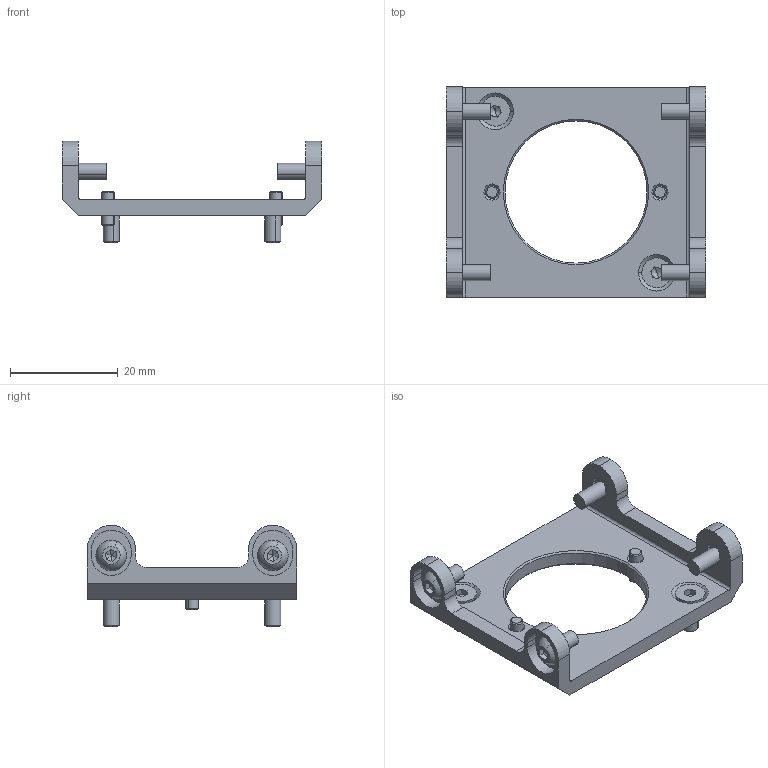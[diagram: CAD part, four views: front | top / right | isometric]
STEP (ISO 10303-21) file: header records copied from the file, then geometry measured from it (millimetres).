
FILE_DESCRIPTION (( 'STEP AP203' ), '1' );
FILE_NAME ('CSC1-C.STEP', '2024-03-28T03:19:53', ( '' ), ( '' ), 'SwSTEP 2.0', 'SolidWorks 2021', '' );
FILE_SCHEMA (( 'CONFIG_CONTROL_DESIGN' ));
Length unit declared in the file: millimetre
Products named in the file (1): CSC1-C
Bounding box: 48.2 x 39 x 18.84 mm (x, y, z)
Surface area: 5374.8 mm2 (no closed solid volume)
Topology: 0 solids, 13 shells, 271 faces, 974 edges, 728 vertices
Faces by surface type: plane 160, cylinder 64, cone 32, sphere 8, bspline 7
Entity records: 11983 total; most frequent: CARTESIAN_POINT 3725, DIRECTION 1624, ORIENTED_EDGE 1538, EDGE_CURVE 970, VERTEX_POINT 728, LINE 686, VECTOR 686, AXIS2_PLACEMENT_3D 469
